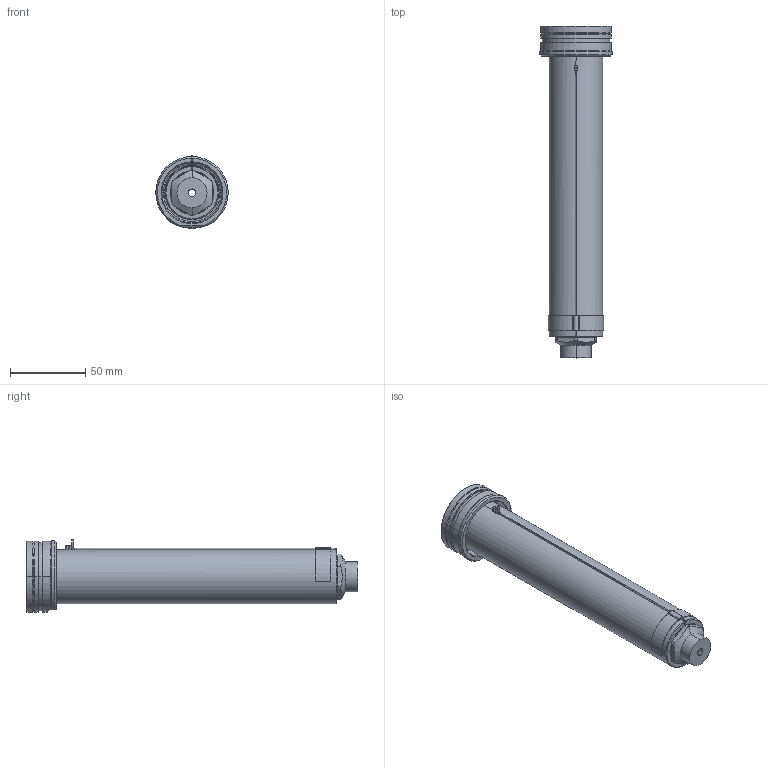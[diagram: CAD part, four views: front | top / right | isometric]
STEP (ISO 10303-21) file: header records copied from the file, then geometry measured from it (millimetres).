
FILE_DESCRIPTION((''),'2;1');
FILE_NAME('EO16_VG-FB_WR_200_SW','2024-02-19T13:46:26',('sundharh'),(''),'CREO PARAMETRIC BY PTC INC, 2023154','CREO PARAMETRIC BY PTC INC, 2023154','');
FILE_SCHEMA(('CONFIG_CONTROL_DESIGN'));
Length unit declared in the file: millimetre
Products named in the file (1): EO16_VG-FB_WR_200_SW
Bounding box: 47.97 x 220 x 48 mm (x, y, z)
Volume: 179338.2 mm3; surface area: 44474.7 mm2
Topology: 1 solids, 1 shells, 196 faces, 474 edges, 285 vertices
Faces by surface type: cylinder 72, plane 46, cone 39, torus 24, bspline 13, sphere 2
Entity records: 6641 total; most frequent: CARTESIAN_POINT 1983, DIRECTION 1048, ORIENTED_EDGE 932, EDGE_CURVE 466, AXIS2_PLACEMENT_3D 439, VERTEX_POINT 285, CIRCLE 256, EDGE_LOOP 213
